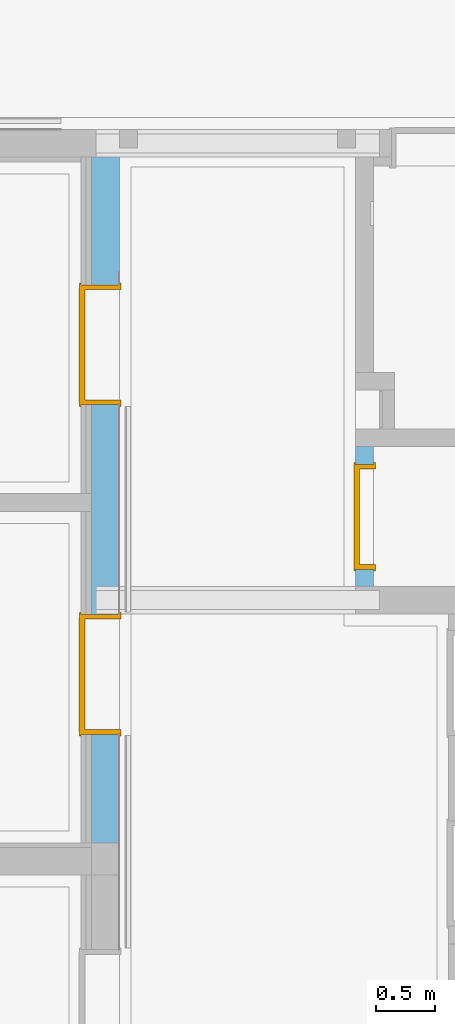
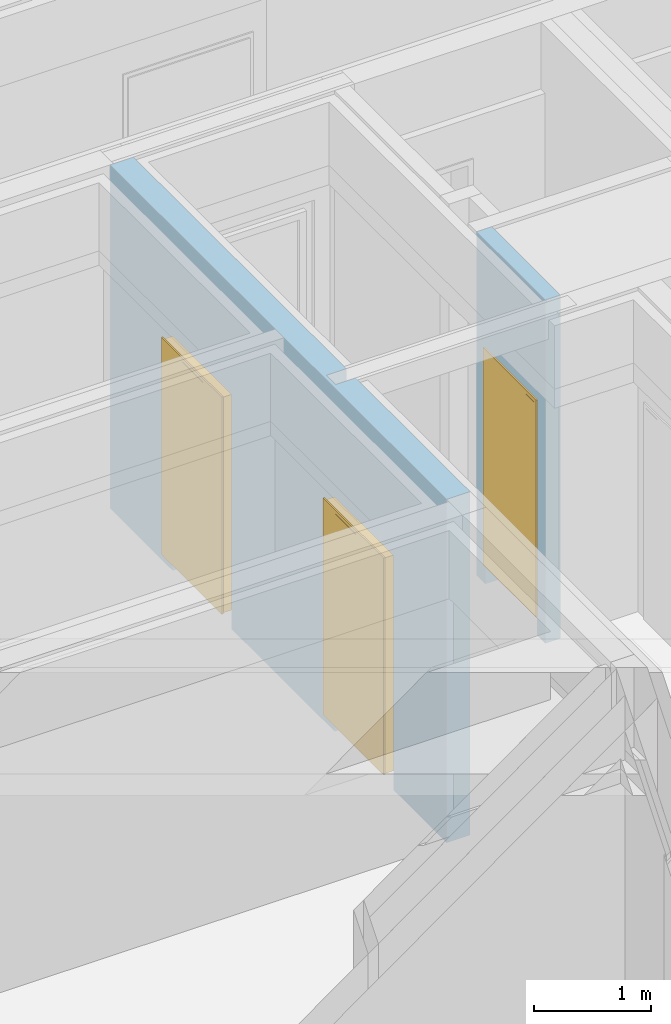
# One storey, part 143 of 207: 3 doors, 3 openings, plus 2 elements that do not belong to this part.
"""IFC4 building model written with IfcOpenShell, lengths in metres."""

from ifc_helpers import new_model, entity, si_unit, converted_unit, derived_unit, frame, frame_2d, origin, origin_with_axes, place, context, subcontext, project, spatial, polyline, rectangle, outline, extrude, clip, bounded_halfspace, faceted_brep, source, transform, mapped, material, type_object, element, fill, save


model = new_model("IFC4")

# Units and contexts
model_context = context("Model", 3, precision=1e-05, world=origin())
body_context = subcontext(model_context, "Body", "Model", "MODEL_VIEW")
ifc_project = project(units=[si_unit("LENGTHUNIT", "METRE"), si_unit("AREAUNIT", "SQUARE_METRE"), si_unit("VOLUMEUNIT", "CUBIC_METRE"), si_unit("MASSUNIT", "GRAM", prefix="KILO"), converted_unit("PLANEANGLEUNIT", "DEGREE", entity("IfcPlaneAngleMeasure", 0.0174532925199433), si_unit("PLANEANGLEUNIT", "RADIAN"), dimensions=[0, 0, 0, 0, 0, 0, 0]), derived_unit("THERMALTRANSMITTANCEUNIT", [(si_unit("POWERUNIT", "WATT"), 1), (si_unit("THERMODYNAMICTEMPERATUREUNIT", "KELVIN"), -1), (si_unit("LENGTHUNIT", "METRE"), -2)]), derived_unit("VOLUMETRICFLOWRATEUNIT", [(si_unit("LENGTHUNIT", "METRE"), 3), (converted_unit("TIMEUNIT", "hour", entity("IfcTimeMeasure", 3600.0), si_unit("TIMEUNIT", "SECOND"), dimensions=[0, 0, 1, 0, 0, 0, 0]), -1), (si_unit("LENGTHUNIT", "METRE"), -1)])], contexts=[model_context])

# Site, building, storey
site_placement = place(None, origin())
site = spatial("IfcSite", under=ifc_project, at=site_placement, Name="Psychiatrie Neubau Wunstorf", CompositionType="ELEMENT")
building_placement = place(site_placement, origin())
building = spatial("IfcBuilding", under=site, at=building_placement, Name="Neubau H2 Stationsgebäude", CompositionType="ELEMENT")
storey_placement = place(building_placement, frame((0.0, 0.0, -0.2)))
storey = spatial("IfcBuildingStorey", under=building, at=storey_placement, Name="H2 Ebene 0", CompositionType="ELEMENT", Elevation=-0.2)

# Wall, opening, door
ifc_material_1 = material(Name="WI-LB")
wall_1_placement = place(storey_placement, frame((98.225, 18.9860040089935, 0.0), z_axis=(0.0, 0.0, 1.0), x_axis=(0.0, 1.0, 0.0)))
wall_1 = element("IfcWall", 1, at=wall_1_placement, inside=storey, material=ifc_material_1, context=body_context, shape_type="SweptSolid", body=[
    extrude(rectangle(XDim=1.17898976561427, YDim=0.15, at=frame_2d((0.589494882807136, 0.075), x_axis=(1.0, 0.0))), origin_with_axes(), (0.0, 0.0, 1.0), 3.6),
])
opening_1_placement = place(wall_1_placement, frame((1.02898976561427, 0.15, 0.0), z_axis=(0.0, -1.0, 0.0), x_axis=(0.0, 0.0, 1.0)))
opening_1 = element("IfcOpeningElement", 2, at=opening_1_placement, cuts=wall_1, Name="Türöffnung", ObjectType="Opening", context=body_context, shape_type="SweptSolid", body=[
    extrude(outline(polyline([(2.46, 0.885000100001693), (2.46, 0.0), (0.0, 0.0), (0.0, 0.885000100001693), (2.46, 0.885000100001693)])), origin_with_axes(), (0.0, 0.0, 1.0), 0.15),
])
ifc_material_2 = material(Name="TI-1F-UZ-ZK")
door_type_1 = type_object("IfcDoorType", Name="SMT", OperationType="SINGLE_SWING_RIGHT", ParameterTakesPrecedence=False, PredefinedType="DOOR")
shared_shape_1 = source(origin_with_axes(), body_context, "Body", "Brep", [
    faceted_brep([(-0.0649999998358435, 0.0250000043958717, 0.0), (-0.0249999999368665, 0.0250000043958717, 0.0), (-0.0249999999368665, 0.124999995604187, 0.0), (-0.0649999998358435, 0.124999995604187, 0.0), (-0.0649999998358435, 0.124999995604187, 3.6), (-0.0249999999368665, 0.124999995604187, 3.6), (-0.0249999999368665, 0.0250000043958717, 3.6), (-0.0649999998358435, 0.0250000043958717, 3.6)], [[[0, 1, 2, 3]], [[4, 5, 6, 7]], [[3, 4, 7, 0]], [[2, 5, 4, 3]], [[1, 6, 5, 2]], [[0, 7, 6, 1]]], orient=[[False], [False], [False], [False], [False], [False]]),
    faceted_brep([(0.910000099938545, 0.0250000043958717, 0.0), (0.950000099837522, 0.0250000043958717, 0.0), (0.950000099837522, 0.124999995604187, 0.0), (0.910000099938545, 0.124999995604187, 0.0), (0.910000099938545, 0.124999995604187, 3.6), (0.950000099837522, 0.124999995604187, 3.6), (0.950000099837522, 0.0250000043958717, 3.6), (0.910000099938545, 0.0250000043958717, 3.6)], [[[0, 1, 2, 3]], [[4, 5, 6, 7]], [[3, 4, 7, 0]], [[2, 5, 4, 3]], [[1, 6, 5, 2]], [[0, 7, 6, 1]]], orient=[[False], [False], [False], [False], [False], [False]]),
    faceted_brep([(-0.0249999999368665, 0.0250000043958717, 2.485), (0.910000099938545, 0.0250000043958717, 2.485), (0.910000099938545, 0.124999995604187, 2.485), (-0.0249999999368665, 0.124999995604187, 2.485), (-0.0249999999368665, 0.124999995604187, 2.525), (0.910000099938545, 0.124999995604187, 2.525), (0.910000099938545, 0.0250000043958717, 2.525), (-0.0249999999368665, 0.0250000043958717, 2.525)], [[[0, 1, 2, 3]], [[4, 5, 6, 7]], [[3, 4, 7, 0]], [[2, 5, 4, 3]], [[1, 6, 5, 2]], [[0, 7, 6, 1]]], orient=[[False], [False], [False], [False], [False], [False]]),
])
shared_shape_2 = source(origin_with_axes(), body_context, "Body", "Brep", [
    faceted_brep([(0.0, -0.0149999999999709, 2.46), (0.0399999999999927, -0.0149999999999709, 2.46), (0.0399999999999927, -0.0149999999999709, 0.2), (0.0, -0.0149999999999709, 0.2), (0.0, 0.165000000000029, 0.2), (0.0399999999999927, 0.165000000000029, 0.2), (0.0399999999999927, 0.165000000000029, 2.46), (0.0, 0.165000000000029, 2.46)], [[[0, 1, 2, 3]], [[4, 5, 6, 7]], [[3, 4, 7, 0]], [[2, 5, 4, 3]], [[1, 6, 5, 2]], [[0, 7, 6, 1]]], orient=[[False], [False], [False], [False], [False], [False]]),
    faceted_brep([(0.0, -0.0149999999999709, 2.475), (0.0, -0.0149999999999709, 0.2), (-0.0150000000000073, -0.0149999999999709, 0.2), (-0.0150000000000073, -0.0149999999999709, 2.475), (0.0, 0.0, 0.2), (0.0, 0.0, 2.475), (-0.0150000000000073, 0.0, 2.475), (-0.0150000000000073, 0.0, 0.2)], [[[0, 1, 2, 3]], [[4, 5, 6, 7]], [[1, 0, 5, 4]], [[2, 1, 4, 7]], [[3, 2, 7, 6]], [[0, 3, 6, 5]]], orient=[[False], [False], [False], [False], [False], [False]]),
    faceted_brep([(0.0, 0.150000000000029, 2.475), (0.0, 0.150000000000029, 0.2), (-0.0150000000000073, 0.150000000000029, 0.2), (-0.0150000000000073, 0.150000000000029, 2.475), (0.0, 0.165000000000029, 0.2), (0.0, 0.165000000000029, 2.475), (-0.0150000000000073, 0.165000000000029, 2.475), (-0.0150000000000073, 0.165000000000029, 0.2)], [[[0, 1, 2, 3]], [[4, 5, 6, 7]], [[1, 0, 5, 4]], [[2, 1, 4, 7]], [[3, 2, 7, 6]], [[0, 3, 6, 5]]], orient=[[False], [False], [False], [False], [False], [False]]),
    faceted_brep([(0.845000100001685, -0.0149999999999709, 2.46), (0.885000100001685, -0.0149999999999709, 2.46), (0.885000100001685, -0.0149999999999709, 0.2), (0.845000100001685, -0.0149999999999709, 0.2), (0.845000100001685, 0.165000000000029, 0.2), (0.885000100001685, 0.165000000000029, 0.2), (0.885000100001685, 0.165000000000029, 2.46), (0.845000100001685, 0.165000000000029, 2.46)], [[[0, 1, 2, 3]], [[4, 5, 6, 7]], [[3, 4, 7, 0]], [[2, 5, 4, 3]], [[1, 6, 5, 2]], [[0, 7, 6, 1]]], orient=[[False], [False], [False], [False], [False], [False]]),
    faceted_brep([(0.885000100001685, -0.0149999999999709, 2.475), (0.900000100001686, -0.0149999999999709, 2.475), (0.900000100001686, -0.0149999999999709, 0.2), (0.885000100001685, -0.0149999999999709, 0.2), (0.885000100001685, 0.0, 0.2), (0.900000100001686, 0.0, 0.2), (0.900000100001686, 0.0, 2.475), (0.885000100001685, 0.0, 2.475)], [[[0, 1, 2, 3]], [[4, 5, 6, 7]], [[3, 4, 7, 0]], [[2, 5, 4, 3]], [[1, 6, 5, 2]], [[0, 7, 6, 1]]], orient=[[False], [False], [False], [False], [False], [False]]),
    faceted_brep([(0.885000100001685, 0.150000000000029, 2.475), (0.900000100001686, 0.150000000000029, 2.475), (0.900000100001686, 0.150000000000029, 0.2), (0.885000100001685, 0.150000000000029, 0.2), (0.885000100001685, 0.165000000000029, 0.2), (0.900000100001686, 0.165000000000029, 0.2), (0.900000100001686, 0.165000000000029, 2.475), (0.885000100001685, 0.165000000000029, 2.475)], [[[0, 1, 2, 3]], [[4, 5, 6, 7]], [[3, 4, 7, 0]], [[2, 5, 4, 3]], [[1, 6, 5, 2]], [[0, 7, 6, 1]]], orient=[[False], [False], [False], [False], [False], [False]]),
    faceted_brep([(0.0399999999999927, -0.0149999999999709, 2.46), (0.845000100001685, -0.0149999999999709, 2.46), (0.845000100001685, -0.0149999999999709, 2.42), (0.0399999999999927, -0.0149999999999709, 2.42), (0.0399999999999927, 0.165000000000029, 2.42), (0.845000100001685, 0.165000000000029, 2.42), (0.845000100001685, 0.165000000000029, 2.46), (0.0399999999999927, 0.165000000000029, 2.46)], [[[0, 1, 2, 3]], [[4, 5, 6, 7]], [[3, 4, 7, 0]], [[2, 5, 4, 3]], [[1, 6, 5, 2]], [[0, 7, 6, 1]]], orient=[[False], [False], [False], [False], [False], [False]]),
    faceted_brep([(0.0, -0.0149999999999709, 2.475), (0.885000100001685, -0.0149999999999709, 2.475), (0.885000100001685, -0.0149999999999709, 2.46), (0.0, -0.0149999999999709, 2.46), (0.0, 0.0, 2.46), (0.885000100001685, 0.0, 2.46), (0.885000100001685, 0.0, 2.475), (0.0, 0.0, 2.475)], [[[0, 1, 2, 3]], [[4, 5, 6, 7]], [[3, 4, 7, 0]], [[2, 5, 4, 3]], [[1, 6, 5, 2]], [[0, 7, 6, 1]]], orient=[[False], [False], [False], [False], [False], [False]]),
    faceted_brep([(0.0, 0.150000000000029, 2.475), (0.885000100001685, 0.150000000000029, 2.475), (0.885000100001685, 0.150000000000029, 2.46), (0.0, 0.150000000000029, 2.46), (0.0, 0.165000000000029, 2.46), (0.885000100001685, 0.165000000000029, 2.46), (0.885000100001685, 0.165000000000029, 2.475), (0.0, 0.165000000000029, 2.475)], [[[0, 1, 2, 3]], [[4, 5, 6, 7]], [[3, 4, 7, 0]], [[2, 5, 4, 3]], [[1, 6, 5, 2]], [[0, 7, 6, 1]]], orient=[[False], [False], [False], [False], [False], [False]]),
    faceted_brep([(0.0249999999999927, 0.116000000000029, 2.435), (0.860000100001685, 0.116000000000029, 2.435), (0.860000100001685, 0.116000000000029, 0.2), (0.0249999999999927, 0.116000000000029, 0.2), (0.0249999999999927, 0.166000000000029, 0.2), (0.860000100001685, 0.166000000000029, 0.2), (0.860000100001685, 0.166000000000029, 2.435), (0.0249999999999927, 0.166000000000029, 2.435)], [[[0, 1, 2, 3]], [[4, 5, 6, 7]], [[3, 4, 7, 0]], [[2, 5, 4, 3]], [[1, 6, 5, 2]], [[0, 7, 6, 1]]], orient=[[False], [False], [False], [False], [False], [False]]),
])
door_1_placement = place(opening_1_placement, frame((0.0, 0.885000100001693, 0.15), z_axis=(1.0, 0.0, 0.0), x_axis=(0.0, -1.0, 0.0)))
door_1 = element("IfcDoor", 3, at=door_1_placement, inside=storey, type_object=door_type_1, material=ifc_material_2, Name="SMT", OverallHeight=2.46, OverallWidth=0.885, context=body_context, shape_type="MappedRepresentation", body=[
    mapped(shared_shape_1, transform((0.0, 0.0, 0.0), x_axis=(1.0, 0.0, 0.0), y_axis=(0.0, 1.0, 0.0), z_axis=(0.0, 0.0, 1.0), scale=1.0)),
    mapped(shared_shape_2, transform((0.0, 0.0, 0.0), x_axis=(1.0, 0.0, 0.0), y_axis=(0.0, 1.0, 0.0), z_axis=(0.0, 0.0, 1.0), scale=1.0)),
])
fill(opening_1, door_1)

# Wall, openings, doors
ifc_material_3 = material(Name="WI-HW 60")
wall_2_placement = place(storey_placement, frame((95.8505000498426, 22.604, 0.0), z_axis=(0.0, 0.0, 1.0), x_axis=(0.0, -1.0, 0.0)))
wall_2 = element("IfcWall", 4, at=wall_2_placement, inside=storey, material=ifc_material_3, context=body_context, shape_type="Clipping", body=[
    clip(extrude(rectangle(XDim=5.7785, YDim=0.231999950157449, at=frame_2d((2.88925, 0.115999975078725), x_axis=(1.0, 0.0))), origin_with_axes(), (0.0, 0.0, 1.0), 3.6), bounded_halfspace(frame((3.73399598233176, 0.133996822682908, 3.4), z_axis=(0.0, 0.0, -1.0), x_axis=(0.999999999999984, 1.77029687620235e-07, 0.0)), True, origin_with_axes(), polyline([(3.65399599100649, 0.0359936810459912), (3.81399599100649, 0.0359937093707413), (3.81399599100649, 0.231999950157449), (3.65399595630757, 0.231999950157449), (3.65399599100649, 0.0359936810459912)]))),
])
opening_2_placement = place(wall_2_placement, frame((4.86410239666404, 0.231999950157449, 0.0), z_axis=(0.0, -1.0, 0.0), x_axis=(0.0, 0.0, 1.0)))
opening_2 = element("IfcOpeningElement", 5, at=opening_2_placement, cuts=wall_2, Name="Türöffnung", ObjectType="Opening", context=body_context, shape_type="SweptSolid", body=[
    extrude(outline(polyline([(2.46, 1.01), (2.46, 0.0), (0.0, 0.0), (0.0, 1.01), (2.46, 1.01)])), origin_with_axes(), (0.0, 0.0, 1.0), 0.231999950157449),
])
opening_3_placement = place(wall_2_placement, frame((2.08599999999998, 0.231999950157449, 0.0), z_axis=(0.0, -1.0, 0.0), x_axis=(0.0, 0.0, 1.0)))
opening_3 = element("IfcOpeningElement", 6, at=opening_3_placement, cuts=wall_2, Name="Türöffnung", ObjectType="Opening", context=body_context, shape_type="SweptSolid", body=[
    extrude(outline(polyline([(2.46, 1.01), (2.46, 0.0), (0.0, 0.0), (0.0, 1.01), (2.46, 1.01)])), origin_with_axes(), (0.0, 0.0, 1.0), 0.231999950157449),
])
ifc_material_4 = material(Name="TI-1F-UZ-ZK")
door_type_2 = type_object("IfcDoorType", Name="SMT", OperationType="SINGLE_SWING_RIGHT", ParameterTakesPrecedence=False, PredefinedType="DOOR")
shared_shape_3 = source(origin_with_axes(), body_context, "Body", "Brep", [
    faceted_brep([(1.00999999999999, -0.0149999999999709, 2.46), (1.00999999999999, -0.0149999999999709, 0.2), (0.969999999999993, -0.0149999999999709, 0.2), (0.969999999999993, -0.0149999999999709, 2.46), (1.00999999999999, 0.336499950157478, 0.2), (1.00999999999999, 0.336499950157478, 2.46), (0.969999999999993, 0.336499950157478, 2.46), (0.969999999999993, 0.336499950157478, 0.2)], [[[0, 1, 2, 3]], [[4, 5, 6, 7]], [[1, 0, 5, 4]], [[2, 1, 4, 7]], [[3, 2, 7, 6]], [[0, 3, 6, 5]]], orient=[[False], [False], [False], [False], [False], [False]]),
    faceted_brep([(1.00999999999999, -0.0149999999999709, 2.475), (1.02499999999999, -0.0149999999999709, 2.475), (1.02499999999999, -0.0149999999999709, 0.2), (1.00999999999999, -0.0149999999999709, 0.2), (1.00999999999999, 0.0, 0.2), (1.02499999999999, 0.0, 0.2), (1.02499999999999, 0.0, 2.475), (1.00999999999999, 0.0, 2.475)], [[[0, 1, 2, 3]], [[4, 5, 6, 7]], [[3, 4, 7, 0]], [[2, 5, 4, 3]], [[1, 6, 5, 2]], [[0, 7, 6, 1]]], orient=[[False], [False], [False], [False], [False], [False]]),
    faceted_brep([(1.00999999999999, 0.321499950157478, 2.475), (1.02499999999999, 0.321499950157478, 2.475), (1.02499999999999, 0.321499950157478, 0.2), (1.00999999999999, 0.321499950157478, 0.2), (1.00999999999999, 0.336499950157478, 0.2), (1.02499999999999, 0.336499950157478, 0.2), (1.02499999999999, 0.336499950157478, 2.475), (1.00999999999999, 0.336499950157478, 2.475)], [[[0, 1, 2, 3]], [[4, 5, 6, 7]], [[3, 4, 7, 0]], [[2, 5, 4, 3]], [[1, 6, 5, 2]], [[0, 7, 6, 1]]], orient=[[False], [False], [False], [False], [False], [False]]),
    faceted_brep([(0.0399999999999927, -0.0149999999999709, 2.46), (0.0399999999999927, -0.0149999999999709, 0.2), (0.0, -0.0149999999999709, 0.2), (0.0, -0.0149999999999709, 2.46), (0.0399999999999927, 0.336499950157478, 0.2), (0.0399999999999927, 0.336499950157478, 2.46), (0.0, 0.336499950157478, 2.46), (0.0, 0.336499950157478, 0.2)], [[[0, 1, 2, 3]], [[4, 5, 6, 7]], [[1, 0, 5, 4]], [[2, 1, 4, 7]], [[3, 2, 7, 6]], [[0, 3, 6, 5]]], orient=[[False], [False], [False], [False], [False], [False]]),
    faceted_brep([(0.0, -0.0149999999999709, 2.475), (0.0, -0.0149999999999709, 0.2), (-0.0150000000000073, -0.0149999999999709, 0.2), (-0.0150000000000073, -0.0149999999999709, 2.475), (0.0, 0.0, 0.2), (0.0, 0.0, 2.475), (-0.0150000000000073, 0.0, 2.475), (-0.0150000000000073, 0.0, 0.2)], [[[0, 1, 2, 3]], [[4, 5, 6, 7]], [[1, 0, 5, 4]], [[2, 1, 4, 7]], [[3, 2, 7, 6]], [[0, 3, 6, 5]]], orient=[[False], [False], [False], [False], [False], [False]]),
    faceted_brep([(0.0, 0.321499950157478, 2.475), (0.0, 0.321499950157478, 0.2), (-0.0150000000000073, 0.321499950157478, 0.2), (-0.0150000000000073, 0.321499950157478, 2.475), (0.0, 0.336499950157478, 0.2), (0.0, 0.336499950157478, 2.475), (-0.0150000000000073, 0.336499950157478, 2.475), (-0.0150000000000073, 0.336499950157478, 0.2)], [[[0, 1, 2, 3]], [[4, 5, 6, 7]], [[1, 0, 5, 4]], [[2, 1, 4, 7]], [[3, 2, 7, 6]], [[0, 3, 6, 5]]], orient=[[False], [False], [False], [False], [False], [False]]),
    faceted_brep([(0.969999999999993, -0.0149999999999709, 2.46), (0.969999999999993, -0.0149999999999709, 2.42), (0.0399999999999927, -0.0149999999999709, 2.42), (0.0399999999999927, -0.0149999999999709, 2.46), (0.969999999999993, 0.336499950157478, 2.42), (0.969999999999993, 0.336499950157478, 2.46), (0.0399999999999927, 0.336499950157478, 2.46), (0.0399999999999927, 0.336499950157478, 2.42)], [[[0, 1, 2, 3]], [[4, 5, 6, 7]], [[1, 0, 5, 4]], [[2, 1, 4, 7]], [[3, 2, 7, 6]], [[0, 3, 6, 5]]], orient=[[False], [False], [False], [False], [False], [False]]),
    faceted_brep([(1.00999999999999, -0.0149999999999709, 2.475), (1.00999999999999, -0.0149999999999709, 2.46), (0.0, -0.0149999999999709, 2.46), (0.0, -0.0149999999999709, 2.475), (1.00999999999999, 0.0, 2.46), (1.00999999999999, 0.0, 2.475), (0.0, 0.0, 2.475), (0.0, 0.0, 2.46)], [[[0, 1, 2, 3]], [[4, 5, 6, 7]], [[1, 0, 5, 4]], [[2, 1, 4, 7]], [[3, 2, 7, 6]], [[0, 3, 6, 5]]], orient=[[False], [False], [False], [False], [False], [False]]),
    faceted_brep([(1.00999999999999, 0.321499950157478, 2.475), (1.00999999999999, 0.321499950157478, 2.46), (0.0, 0.321499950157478, 2.46), (0.0, 0.321499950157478, 2.475), (1.00999999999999, 0.336499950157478, 2.46), (1.00999999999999, 0.336499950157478, 2.475), (0.0, 0.336499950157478, 2.475), (0.0, 0.336499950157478, 2.46)], [[[0, 1, 2, 3]], [[4, 5, 6, 7]], [[1, 0, 5, 4]], [[2, 1, 4, 7]], [[3, 2, 7, 6]], [[0, 3, 6, 5]]], orient=[[False], [False], [False], [False], [False], [False]]),
    faceted_brep([(0.984999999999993, 0.287499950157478, 2.435), (0.984999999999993, 0.287499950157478, 0.2), (0.0249999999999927, 0.287499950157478, 0.2), (0.0249999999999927, 0.287499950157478, 2.435), (0.984999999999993, 0.337499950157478, 0.2), (0.984999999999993, 0.337499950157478, 2.435), (0.0249999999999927, 0.337499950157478, 2.435), (0.0249999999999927, 0.337499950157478, 0.2)], [[[0, 1, 2, 3]], [[4, 5, 6, 7]], [[1, 0, 5, 4]], [[2, 1, 4, 7]], [[3, 2, 7, 6]], [[0, 3, 6, 5]]], orient=[[False], [False], [False], [False], [False], [False]]),
])
door_2_placement = place(opening_2_placement, frame((0.0, 0.0, 0.0), z_axis=(1.0, 0.0, 0.0), x_axis=(0.0, 1.0, 0.0)))
door_2 = element("IfcDoor", 7, at=door_2_placement, inside=storey, type_object=door_type_2, material=ifc_material_4, Name="SMT", OverallHeight=2.46, OverallWidth=1.01, context=body_context, shape_type="MappedRepresentation", body=[
    mapped(shared_shape_3, transform((0.0, 0.0, 0.0), x_axis=(1.0, 0.0, 0.0), y_axis=(0.0, 1.0, 0.0), z_axis=(0.0, 0.0, 1.0), scale=1.0)),
])
fill(opening_2, door_2)
ifc_material_5 = material(Name="TI-1F-UZ-ZK")
door_type_3 = type_object("IfcDoorType", Name="SMT", OperationType="SINGLE_SWING_RIGHT", ParameterTakesPrecedence=False, PredefinedType="DOOR")
shared_shape_4 = source(origin_with_axes(), body_context, "Body", "Brep", [
    faceted_brep([(0.0, -0.0149999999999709, 2.46), (0.0399999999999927, -0.0149999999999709, 2.46), (0.0399999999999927, -0.0149999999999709, 0.2), (0.0, -0.0149999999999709, 0.2), (0.0, 0.336499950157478, 0.2), (0.0399999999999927, 0.336499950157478, 0.2), (0.0399999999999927, 0.336499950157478, 2.46), (0.0, 0.336499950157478, 2.46)], [[[0, 1, 2, 3]], [[4, 5, 6, 7]], [[3, 4, 7, 0]], [[2, 5, 4, 3]], [[1, 6, 5, 2]], [[0, 7, 6, 1]]], orient=[[False], [False], [False], [False], [False], [False]]),
    faceted_brep([(0.0, -0.0149999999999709, 2.475), (0.0, -0.0149999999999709, 0.2), (-0.0150000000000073, -0.0149999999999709, 0.2), (-0.0150000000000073, -0.0149999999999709, 2.475), (0.0, 0.0, 0.2), (0.0, 0.0, 2.475), (-0.0150000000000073, 0.0, 2.475), (-0.0150000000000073, 0.0, 0.2)], [[[0, 1, 2, 3]], [[4, 5, 6, 7]], [[1, 0, 5, 4]], [[2, 1, 4, 7]], [[3, 2, 7, 6]], [[0, 3, 6, 5]]], orient=[[False], [False], [False], [False], [False], [False]]),
    faceted_brep([(0.0, 0.321499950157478, 2.475), (0.0, 0.321499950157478, 0.2), (-0.0150000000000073, 0.321499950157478, 0.2), (-0.0150000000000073, 0.321499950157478, 2.475), (0.0, 0.336499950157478, 0.2), (0.0, 0.336499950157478, 2.475), (-0.0150000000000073, 0.336499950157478, 2.475), (-0.0150000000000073, 0.336499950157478, 0.2)], [[[0, 1, 2, 3]], [[4, 5, 6, 7]], [[1, 0, 5, 4]], [[2, 1, 4, 7]], [[3, 2, 7, 6]], [[0, 3, 6, 5]]], orient=[[False], [False], [False], [False], [False], [False]]),
    faceted_brep([(0.969999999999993, -0.0149999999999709, 2.46), (1.00999999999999, -0.0149999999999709, 2.46), (1.00999999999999, -0.0149999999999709, 0.2), (0.969999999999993, -0.0149999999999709, 0.2), (0.969999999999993, 0.336499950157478, 0.2), (1.00999999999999, 0.336499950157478, 0.2), (1.00999999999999, 0.336499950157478, 2.46), (0.969999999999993, 0.336499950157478, 2.46)], [[[0, 1, 2, 3]], [[4, 5, 6, 7]], [[3, 4, 7, 0]], [[2, 5, 4, 3]], [[1, 6, 5, 2]], [[0, 7, 6, 1]]], orient=[[False], [False], [False], [False], [False], [False]]),
    faceted_brep([(1.00999999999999, -0.0149999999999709, 2.475), (1.02499999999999, -0.0149999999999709, 2.475), (1.02499999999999, -0.0149999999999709, 0.2), (1.00999999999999, -0.0149999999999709, 0.2), (1.00999999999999, 0.0, 0.2), (1.02499999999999, 0.0, 0.2), (1.02499999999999, 0.0, 2.475), (1.00999999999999, 0.0, 2.475)], [[[0, 1, 2, 3]], [[4, 5, 6, 7]], [[3, 4, 7, 0]], [[2, 5, 4, 3]], [[1, 6, 5, 2]], [[0, 7, 6, 1]]], orient=[[False], [False], [False], [False], [False], [False]]),
    faceted_brep([(1.00999999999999, 0.321499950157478, 2.475), (1.02499999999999, 0.321499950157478, 2.475), (1.02499999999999, 0.321499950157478, 0.2), (1.00999999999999, 0.321499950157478, 0.2), (1.00999999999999, 0.336499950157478, 0.2), (1.02499999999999, 0.336499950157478, 0.2), (1.02499999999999, 0.336499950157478, 2.475), (1.00999999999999, 0.336499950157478, 2.475)], [[[0, 1, 2, 3]], [[4, 5, 6, 7]], [[3, 4, 7, 0]], [[2, 5, 4, 3]], [[1, 6, 5, 2]], [[0, 7, 6, 1]]], orient=[[False], [False], [False], [False], [False], [False]]),
    faceted_brep([(0.0399999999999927, -0.0149999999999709, 2.46), (0.969999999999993, -0.0149999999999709, 2.46), (0.969999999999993, -0.0149999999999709, 2.42), (0.0399999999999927, -0.0149999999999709, 2.42), (0.0399999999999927, 0.336499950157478, 2.42), (0.969999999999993, 0.336499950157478, 2.42), (0.969999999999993, 0.336499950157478, 2.46), (0.0399999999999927, 0.336499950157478, 2.46)], [[[0, 1, 2, 3]], [[4, 5, 6, 7]], [[3, 4, 7, 0]], [[2, 5, 4, 3]], [[1, 6, 5, 2]], [[0, 7, 6, 1]]], orient=[[False], [False], [False], [False], [False], [False]]),
    faceted_brep([(0.0, -0.0149999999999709, 2.475), (1.00999999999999, -0.0149999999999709, 2.475), (1.00999999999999, -0.0149999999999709, 2.46), (0.0, -0.0149999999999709, 2.46), (0.0, 0.0, 2.46), (1.00999999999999, 0.0, 2.46), (1.00999999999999, 0.0, 2.475), (0.0, 0.0, 2.475)], [[[0, 1, 2, 3]], [[4, 5, 6, 7]], [[3, 4, 7, 0]], [[2, 5, 4, 3]], [[1, 6, 5, 2]], [[0, 7, 6, 1]]], orient=[[False], [False], [False], [False], [False], [False]]),
    faceted_brep([(0.0, 0.321499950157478, 2.475), (1.00999999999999, 0.321499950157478, 2.475), (1.00999999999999, 0.321499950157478, 2.46), (0.0, 0.321499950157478, 2.46), (0.0, 0.336499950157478, 2.46), (1.00999999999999, 0.336499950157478, 2.46), (1.00999999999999, 0.336499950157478, 2.475), (0.0, 0.336499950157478, 2.475)], [[[0, 1, 2, 3]], [[4, 5, 6, 7]], [[3, 4, 7, 0]], [[2, 5, 4, 3]], [[1, 6, 5, 2]], [[0, 7, 6, 1]]], orient=[[False], [False], [False], [False], [False], [False]]),
    faceted_brep([(0.0249999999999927, 0.287499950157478, 2.435), (0.984999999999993, 0.287499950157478, 2.435), (0.984999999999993, 0.287499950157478, 0.2), (0.0249999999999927, 0.287499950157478, 0.2), (0.0249999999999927, 0.337499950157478, 0.2), (0.984999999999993, 0.337499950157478, 0.2), (0.984999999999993, 0.337499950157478, 2.435), (0.0249999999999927, 0.337499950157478, 2.435)], [[[0, 1, 2, 3]], [[4, 5, 6, 7]], [[3, 4, 7, 0]], [[2, 5, 4, 3]], [[1, 6, 5, 2]], [[0, 7, 6, 1]]], orient=[[False], [False], [False], [False], [False], [False]]),
])
door_3_placement = place(opening_3_placement, frame((0.0, 0.0, 0.0), z_axis=(1.0, 0.0, 0.0), x_axis=(0.0, 1.0, 0.0)))
door_3 = element("IfcDoor", 8, at=door_3_placement, inside=storey, type_object=door_type_3, material=ifc_material_5, Name="SMT", OverallHeight=2.46, OverallWidth=1.01, context=body_context, shape_type="MappedRepresentation", body=[
    mapped(shared_shape_4, transform((0.0, 0.0, 0.0), x_axis=(1.0, 0.0, 0.0), y_axis=(0.0, 1.0, 0.0), z_axis=(0.0, 0.0, 1.0), scale=1.0)),
])
fill(opening_3, door_3)

save(model, "model.ifc")
